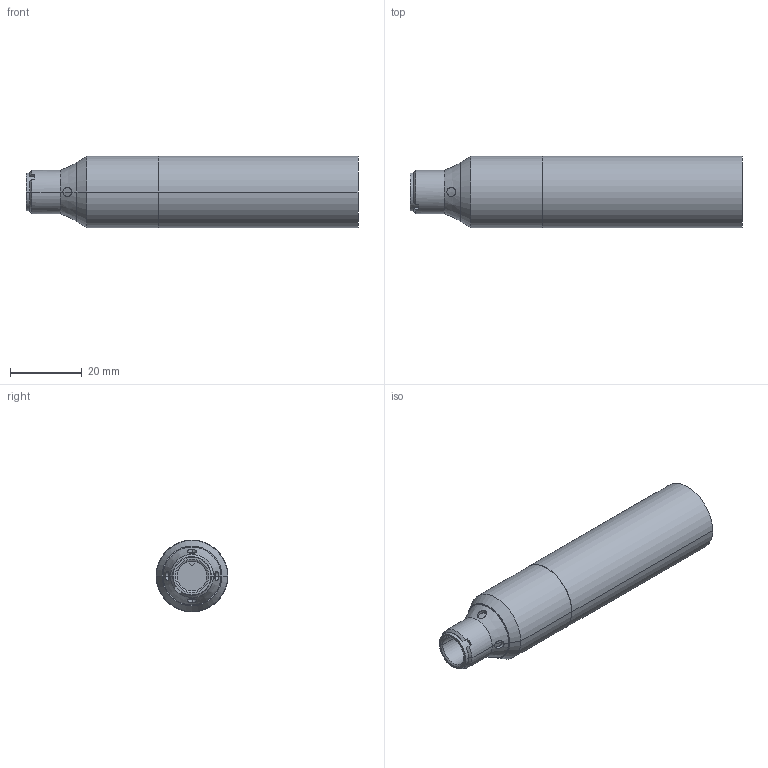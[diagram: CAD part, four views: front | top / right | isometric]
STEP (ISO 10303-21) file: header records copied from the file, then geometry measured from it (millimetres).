
FILE_DESCRIPTION( ( '' ), '1' );
FILE_NAME( '//partserver001.servicenet/client_exchange/iodir/jobs/output/wkb10559115_no0/STEP/ia5127_2_03.stp', '2008-05-13T09:08:47', ( '' ), ( '' ), ' ', ' ', ' ' );
FILE_SCHEMA( ( 'CONFIG_CONTROL_DESIGN' ) );
Length unit declared in the file: millimetre
Products named in the file (1): 1
Bounding box: 92.3 x 19.94 x 19.94 mm (x, y, z)
Volume: 25483.7 mm3; surface area: 6158.6 mm2
Topology: 1 solids, 1 shells, 53 faces, 129 edges, 83 vertices
Faces by surface type: cylinder 21, cone 16, plane 16
Entity records: 1860 total; most frequent: CARTESIAN_POINT 586, ORIENTED_EDGE 258, DIRECTION 254, EDGE_CURVE 129, AXIS2_PLACEMENT_3D 99, VERTEX_POINT 83, EDGE_LOOP 58, LINE 56
